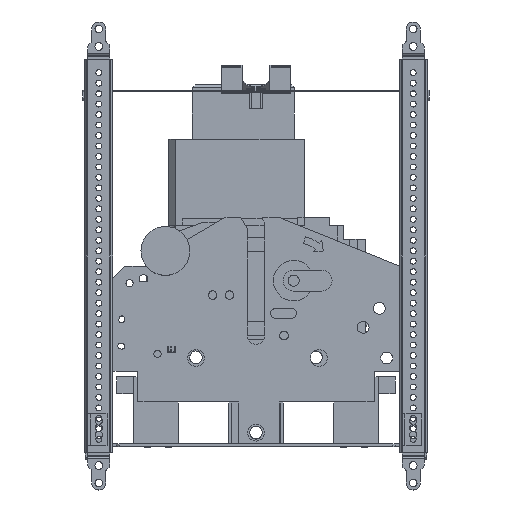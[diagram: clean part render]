
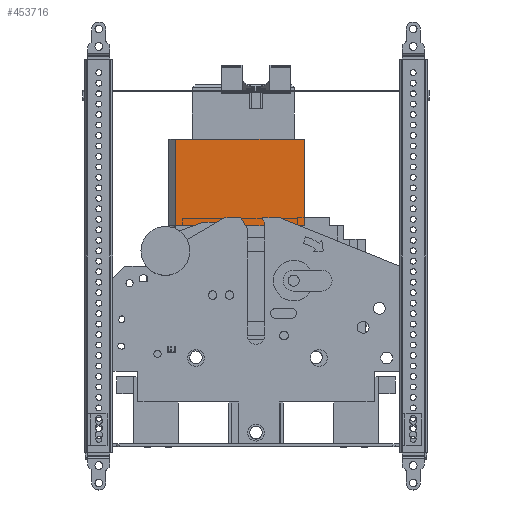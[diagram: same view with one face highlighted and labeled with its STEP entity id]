
A CAD part, left-side view. The second image highlights one B-rep face of the part: STEP entity #453716.
In plain terms, the highlighted planar face has unit normal (-1, 0, 0).
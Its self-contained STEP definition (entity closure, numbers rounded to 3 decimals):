
#452216=CARTESIAN_POINT(' ',(-166.691,60.543,152.353));
#452217=VERTEX_POINT(' ',#452216);
#452231=CARTESIAN_POINT(' ',(-166.691,60.543,152.353));
#452236=DIRECTION(' ',(0.,-1.,0.));
#452241=VECTOR(' ',#452236,1.);
#452246=LINE('',#452231,#452241);
#452251=CARTESIAN_POINT(' ',(-166.691,-31.457,152.353));
#452252=VERTEX_POINT(' ',#452251);
#452256=EDGE_CURVE(' ',#452217,#452252,#452246,.T.);
#453546=CARTESIAN_POINT(' ',(-166.691,60.543,90.653));
#453547=VERTEX_POINT(' ',#453546);
#453561=CARTESIAN_POINT(' ',(-166.691,60.543,152.353));
#453566=DIRECTION(' ',(0.,0.,-1.));
#453571=VECTOR(' ',#453566,1.);
#453576=LINE('',#453561,#453571);
#453581=EDGE_CURVE(' ',#452217,#453547,#453576,.T.);
#453606=DIRECTION(' ',(-1.,0.,-0.));
#453611=CARTESIAN_POINT(' ',(-166.691,-31.457,90.653));
#453616=DIRECTION(' ',(0.,-0.,1.));
#453621=AXIS2_PLACEMENT_3D(' ',#453611,#453606,#453616);
#453626=PLANE('NONE',#453621);
#453631=ORIENTED_EDGE(' ',*,*,#452256,.F.);
#453636=ORIENTED_EDGE(' ',*,*,#453581,.T.);
#453641=CARTESIAN_POINT(' ',(-166.691,60.543,90.653));
#453646=DIRECTION(' ',(0.,-1.,0.));
#453651=VECTOR(' ',#453646,1.);
#453656=LINE('',#453641,#453651);
#453661=CARTESIAN_POINT(' ',(-166.691,-31.457,90.653));
#453662=VERTEX_POINT(' ',#453661);
#453666=EDGE_CURVE(' ',#453547,#453662,#453656,.T.);
#453671=ORIENTED_EDGE(' ',*,*,#453666,.T.);
#453676=CARTESIAN_POINT(' ',(-166.691,-31.457,152.353));
#453681=DIRECTION(' ',(0.,0.,-1.));
#453686=VECTOR(' ',#453681,1.);
#453691=LINE('',#453676,#453686);
#453696=EDGE_CURVE(' ',#452252,#453662,#453691,.T.);
#453701=ORIENTED_EDGE(' ',*,*,#453696,.F.);
#453706=EDGE_LOOP(' ',(#453631,#453636,#453671,#453701));
#453711=FACE_OUTER_BOUND(' ',#453706,.T.);
#453716=ADVANCED_FACE('NONE',(#453711),#453626,.T.);
